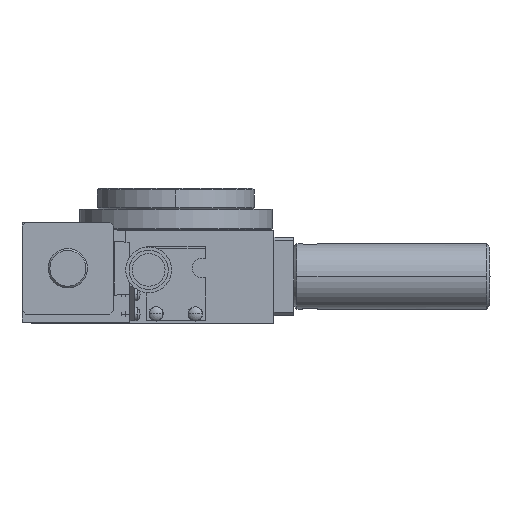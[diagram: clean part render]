
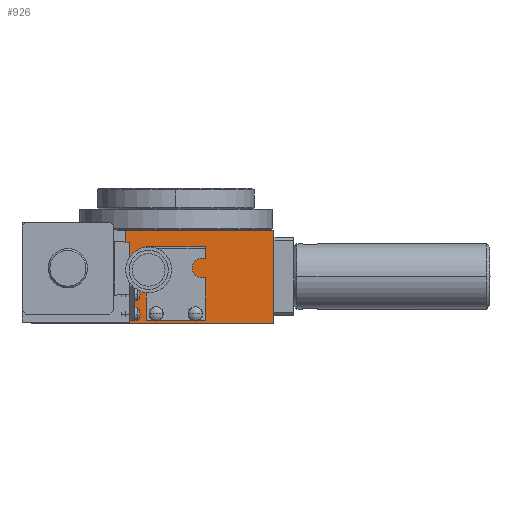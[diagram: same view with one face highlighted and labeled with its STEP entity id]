
A CAD part, left-side view. The second image highlights one B-rep face of the part: STEP entity #926.
In plain terms, the highlighted planar face has unit normal (-1, 0, 0).
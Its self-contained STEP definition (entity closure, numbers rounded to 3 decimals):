
#926=ADVANCED_FACE('',(#1733,#1734,#1735),#1736,.F.);
#1733=FACE_BOUND('',#2922,.T.);
#1734=FACE_OUTER_BOUND('',#2923,.T.);
#1735=FACE_BOUND('',#2924,.T.);
#1736=PLANE('',#2925);
#2922=EDGE_LOOP('',(#5585,#5586,#5587,#5588,#5589,#5590));
#2923=EDGE_LOOP('',(#5591,#5592,#5593,#5594));
#2924=EDGE_LOOP('',(#5595,#5596,#5597,#5598,#5599,#5600));
#2925=AXIS2_PLACEMENT_3D('',#5601,#5602,#5603);
#5585=ORIENTED_EDGE('',*,*,#8692,.F.);
#5586=ORIENTED_EDGE('',*,*,#8693,.F.);
#5587=ORIENTED_EDGE('',*,*,#8694,.F.);
#5588=ORIENTED_EDGE('',*,*,#8695,.F.);
#5589=ORIENTED_EDGE('',*,*,#8696,.F.);
#5590=ORIENTED_EDGE('',*,*,#8697,.F.);
#5591=ORIENTED_EDGE('',*,*,#8698,.T.);
#5592=ORIENTED_EDGE('',*,*,#8699,.F.);
#5593=ORIENTED_EDGE('',*,*,#8700,.F.);
#5594=ORIENTED_EDGE('',*,*,#8701,.T.);
#5595=ORIENTED_EDGE('',*,*,#8702,.F.);
#5596=ORIENTED_EDGE('',*,*,#8689,.F.);
#5597=ORIENTED_EDGE('',*,*,#8703,.F.);
#5598=ORIENTED_EDGE('',*,*,#8704,.F.);
#5599=ORIENTED_EDGE('',*,*,#8705,.F.);
#5600=ORIENTED_EDGE('',*,*,#8706,.F.);
#5601=CARTESIAN_POINT('',(-30.0,44.0,28.5));
#5602=DIRECTION('',(1.0,0.0,0.0));
#5603=DIRECTION('',(0.0,1.0,0.0));
#8689=EDGE_CURVE('',#10463,#10464,#10465,.T.);
#8692=EDGE_CURVE('',#10468,#10469,#10470,.T.);
#8693=EDGE_CURVE('',#10471,#10468,#10472,.T.);
#8694=EDGE_CURVE('',#10473,#10471,#10474,.T.);
#8695=EDGE_CURVE('',#10475,#10473,#10476,.T.);
#8696=EDGE_CURVE('',#10477,#10475,#10478,.T.);
#8697=EDGE_CURVE('',#10469,#10477,#10479,.T.);
#8698=EDGE_CURVE('',#10480,#10481,#10482,.T.);
#8699=EDGE_CURVE('',#10483,#10481,#10484,.T.);
#8700=EDGE_CURVE('',#10485,#10483,#10486,.T.);
#8701=EDGE_CURVE('',#10485,#10480,#10487,.T.);
#8702=EDGE_CURVE('',#10464,#10488,#10489,.T.);
#8703=EDGE_CURVE('',#10490,#10463,#10491,.T.);
#8704=EDGE_CURVE('',#10492,#10490,#10493,.T.);
#8705=EDGE_CURVE('',#10494,#10492,#10495,.T.);
#8706=EDGE_CURVE('',#10488,#10494,#10496,.T.);
#10463=VERTEX_POINT('',#13039);
#10464=VERTEX_POINT('',#13040);
#10465=LINE('',#13041,#13042);
#10468=VERTEX_POINT('',#13047);
#10469=VERTEX_POINT('',#13048);
#10470=LINE('',#13049,#13050);
#10471=VERTEX_POINT('',#13051);
#10472=LINE('',#13052,#13053);
#10473=VERTEX_POINT('',#13054);
#10474=LINE('',#13055,#13056);
#10475=VERTEX_POINT('',#13057);
#10476=LINE('',#13058,#13059);
#10477=VERTEX_POINT('',#13060);
#10478=LINE('',#13061,#13062);
#10479=LINE('',#13063,#13064);
#10480=VERTEX_POINT('',#13065);
#10481=VERTEX_POINT('',#13066);
#10482=LINE('',#13067,#13068);
#10483=VERTEX_POINT('',#13069);
#10484=LINE('',#13070,#13071);
#10485=VERTEX_POINT('',#13072);
#10486=LINE('',#13073,#13074);
#10487=LINE('',#13075,#13076);
#10488=VERTEX_POINT('',#13077);
#10489=LINE('',#13078,#13079);
#10490=VERTEX_POINT('',#13080);
#10491=LINE('',#13081,#13082);
#10492=VERTEX_POINT('',#13083);
#10493=LINE('',#13084,#13085);
#10494=VERTEX_POINT('',#13086);
#10495=LINE('',#13087,#13088);
#10496=LINE('',#13089,#13090);
#13039=CARTESIAN_POINT('',(-30.0,6.0,5.409));
#13040=CARTESIAN_POINT('',(-30.0,8.0,4.255));
#13041=CARTESIAN_POINT('',(-30.0,6.0,5.409));
#13042=VECTOR('',#16035,1000.0);
#13047=CARTESIAN_POINT('',(-30.0,-4.0,4.255));
#13048=CARTESIAN_POINT('',(-30.0,-4.0,1.945));
#13049=CARTESIAN_POINT('',(-30.0,-4.0,4.255));
#13050=VECTOR('',#16038,1000.0);
#13051=CARTESIAN_POINT('',(-30.0,-6.0,5.409));
#13052=CARTESIAN_POINT('',(-30.0,-6.0,5.409));
#13053=VECTOR('',#16039,1000.0);
#13054=CARTESIAN_POINT('',(-30.0,-8.0,4.255));
#13055=CARTESIAN_POINT('',(-30.0,-8.0,4.255));
#13056=VECTOR('',#16040,1000.0);
#13057=CARTESIAN_POINT('',(-30.0,-8.0,1.945));
#13058=CARTESIAN_POINT('',(-30.0,-8.0,1.945));
#13059=VECTOR('',#16041,1000.0);
#13060=CARTESIAN_POINT('',(-30.0,-6.0,0.791));
#13061=CARTESIAN_POINT('',(-30.0,-6.0,0.791));
#13062=VECTOR('',#16042,1000.0);
#13063=CARTESIAN_POINT('',(-30.0,-4.0,1.945));
#13064=VECTOR('',#16043,1000.0);
#13065=CARTESIAN_POINT('',(-30.0,44.0,0.0));
#13066=CARTESIAN_POINT('',(-30.0,-30.0,0.0));
#13067=CARTESIAN_POINT('',(-30.0,44.0,0.0));
#13068=VECTOR('',#16044,1000.0);
#13069=CARTESIAN_POINT('',(-30.0,-30.0,28.5));
#13070=CARTESIAN_POINT('',(-30.0,-30.0,28.5));
#13071=VECTOR('',#16045,1000.0);
#13072=CARTESIAN_POINT('',(-30.0,44.0,28.5));
#13073=CARTESIAN_POINT('',(-30.0,44.0,28.5));
#13074=VECTOR('',#16046,1000.0);
#13075=CARTESIAN_POINT('',(-30.0,44.0,28.5));
#13076=VECTOR('',#16047,1000.0);
#13077=CARTESIAN_POINT('',(-30.0,8.0,1.945));
#13078=CARTESIAN_POINT('',(-30.0,8.0,4.255));
#13079=VECTOR('',#16048,1000.0);
#13080=CARTESIAN_POINT('',(-30.0,4.0,4.255));
#13081=CARTESIAN_POINT('',(-30.0,4.0,4.255));
#13082=VECTOR('',#16049,1000.0);
#13083=CARTESIAN_POINT('',(-30.0,4.0,1.945));
#13084=CARTESIAN_POINT('',(-30.0,4.0,1.945));
#13085=VECTOR('',#16050,1000.0);
#13086=CARTESIAN_POINT('',(-30.0,6.0,0.791));
#13087=CARTESIAN_POINT('',(-30.0,6.0,0.791));
#13088=VECTOR('',#16051,1000.0);
#13089=CARTESIAN_POINT('',(-30.0,8.0,1.945));
#13090=VECTOR('',#16052,1000.0);
#16035=DIRECTION('',(0.0,0.866,-0.5));
#16038=DIRECTION('',(0.0,0.0,-1.0));
#16039=DIRECTION('',(0.0,0.866,-0.5));
#16040=DIRECTION('',(0.0,0.866,0.5));
#16041=DIRECTION('',(0.0,0.0,1.0));
#16042=DIRECTION('',(0.0,-0.866,0.5));
#16043=DIRECTION('',(0.0,-0.866,-0.5));
#16044=DIRECTION('',(0.0,-1.0,0.0));
#16045=DIRECTION('',(0.0,0.0,-1.0));
#16046=DIRECTION('',(0.0,-1.0,0.0));
#16047=DIRECTION('',(0.0,0.0,-1.0));
#16048=DIRECTION('',(0.0,0.0,-1.0));
#16049=DIRECTION('',(0.0,0.866,0.5));
#16050=DIRECTION('',(0.0,0.0,1.0));
#16051=DIRECTION('',(0.0,-0.866,0.5));
#16052=DIRECTION('',(0.0,-0.866,-0.5));
